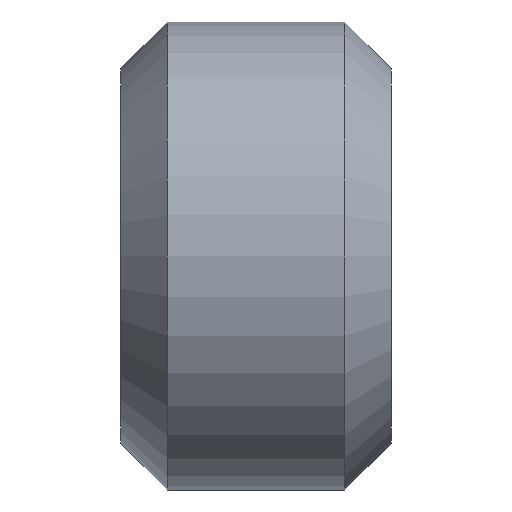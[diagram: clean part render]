
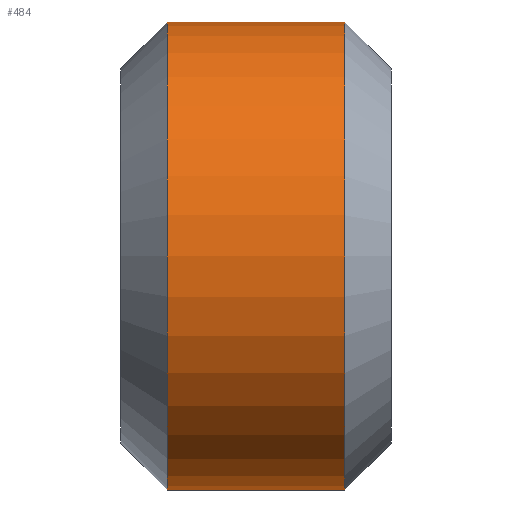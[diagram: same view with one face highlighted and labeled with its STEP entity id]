
A CAD part, front view. The second image highlights one B-rep face of the part: STEP entity #484.
In plain terms, the highlighted cylindrical face has radius 7.615 mm (diameter 15.23 mm), a full revolution.
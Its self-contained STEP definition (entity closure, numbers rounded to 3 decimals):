
#390 = CONICAL_SURFACE('',#391,6.105,0.785);
#391 = AXIS2_PLACEMENT_3D('',#392,#393,#394);
#392 = CARTESIAN_POINT('',(4.4,0.,0.));
#393 = DIRECTION('',(-1.,0.,0.));
#394 = DIRECTION('',(0.,0.,1.));
#409 = EDGE_CURVE('',#410,#412,#414,.T.);
#410 = VERTEX_POINT('',#411);
#411 = CARTESIAN_POINT('',(2.89,0.,-7.615));
#412 = VERTEX_POINT('',#413);
#413 = CARTESIAN_POINT('',(2.89,0.,7.615));
#414 = SURFACE_CURVE('',#415,(#420,#427),.PCURVE_S1.);
#415 = CIRCLE('',#416,7.615);
#416 = AXIS2_PLACEMENT_3D('',#417,#418,#419);
#417 = CARTESIAN_POINT('',(2.89,0.,0.));
#418 = DIRECTION('',(1.,0.,0.));
#419 = DIRECTION('',(0.,0.,-1.));
#420 = PCURVE('',#390,#421);
#421 = DEFINITIONAL_REPRESENTATION('',(#422),#426);
#422 = LINE('',#423,#424);
#423 = CARTESIAN_POINT('',(9.425,1.51));
#424 = VECTOR('',#425,1.);
#425 = DIRECTION('',(-1.,0.));
#426 = ( GEOMETRIC_REPRESENTATION_CONTEXT(2) 
PARAMETRIC_REPRESENTATION_CONTEXT() REPRESENTATION_CONTEXT('2D SPACE',''
  ) );
#427 = PCURVE('',#428,#433);
#428 = CYLINDRICAL_SURFACE('',#429,7.615);
#429 = AXIS2_PLACEMENT_3D('',#430,#431,#432);
#430 = CARTESIAN_POINT('',(0.,0.,0.));
#431 = DIRECTION('',(1.,0.,0.));
#432 = DIRECTION('',(0.,0.,-1.));
#433 = DEFINITIONAL_REPRESENTATION('',(#434),#438);
#434 = LINE('',#435,#436);
#435 = CARTESIAN_POINT('',(0.,2.89));
#436 = VECTOR('',#437,1.);
#437 = DIRECTION('',(1.,0.));
#438 = ( GEOMETRIC_REPRESENTATION_CONTEXT(2) 
PARAMETRIC_REPRESENTATION_CONTEXT() REPRESENTATION_CONTEXT('2D SPACE',''
  ) );
#440 = EDGE_CURVE('',#412,#410,#441,.T.);
#441 = SURFACE_CURVE('',#442,(#447,#454),.PCURVE_S1.);
#442 = CIRCLE('',#443,7.615);
#443 = AXIS2_PLACEMENT_3D('',#444,#445,#446);
#444 = CARTESIAN_POINT('',(2.89,0.,0.));
#445 = DIRECTION('',(1.,0.,0.));
#446 = DIRECTION('',(0.,0.,-1.));
#447 = PCURVE('',#390,#448);
#448 = DEFINITIONAL_REPRESENTATION('',(#449),#453);
#449 = LINE('',#450,#451);
#450 = CARTESIAN_POINT('',(9.425,1.51));
#451 = VECTOR('',#452,1.);
#452 = DIRECTION('',(-1.,0.));
#453 = ( GEOMETRIC_REPRESENTATION_CONTEXT(2) 
PARAMETRIC_REPRESENTATION_CONTEXT() REPRESENTATION_CONTEXT('2D SPACE',''
  ) );
#454 = PCURVE('',#428,#455);
#455 = DEFINITIONAL_REPRESENTATION('',(#456),#460);
#456 = LINE('',#457,#458);
#457 = CARTESIAN_POINT('',(-6.283,2.89));
#458 = VECTOR('',#459,1.);
#459 = DIRECTION('',(1.,0.));
#460 = ( GEOMETRIC_REPRESENTATION_CONTEXT(2) 
PARAMETRIC_REPRESENTATION_CONTEXT() REPRESENTATION_CONTEXT('2D SPACE',''
  ) );
#484 = ADVANCED_FACE('',(#485),#428,.T.);
#485 = FACE_BOUND('',#486,.T.);
#486 = EDGE_LOOP('',(#487,#488,#489,#512,#541,#563));
#487 = ORIENTED_EDGE('',*,*,#409,.F.);
#488 = ORIENTED_EDGE('',*,*,#440,.F.);
#489 = ORIENTED_EDGE('',*,*,#490,.T.);
#490 = EDGE_CURVE('',#412,#491,#493,.T.);
#491 = VERTEX_POINT('',#492);
#492 = CARTESIAN_POINT('',(-2.89,0.,7.615));
#493 = SEAM_CURVE('',#494,(#498,#505),.PCURVE_S1.);
#494 = LINE('',#495,#496);
#495 = CARTESIAN_POINT('',(0.,0.,7.615));
#496 = VECTOR('',#497,1.);
#497 = DIRECTION('',(-1.,0.,0.));
#498 = PCURVE('',#428,#499);
#499 = DEFINITIONAL_REPRESENTATION('',(#500),#504);
#500 = LINE('',#501,#502);
#501 = CARTESIAN_POINT('',(-3.142,0.));
#502 = VECTOR('',#503,1.);
#503 = DIRECTION('',(0.,-1.));
#504 = ( GEOMETRIC_REPRESENTATION_CONTEXT(2) 
PARAMETRIC_REPRESENTATION_CONTEXT() REPRESENTATION_CONTEXT('2D SPACE',''
  ) );
#505 = PCURVE('',#428,#506);
#506 = DEFINITIONAL_REPRESENTATION('',(#507),#511);
#507 = LINE('',#508,#509);
#508 = CARTESIAN_POINT('',(3.142,0.));
#509 = VECTOR('',#510,1.);
#510 = DIRECTION('',(0.,-1.));
#511 = ( GEOMETRIC_REPRESENTATION_CONTEXT(2) 
PARAMETRIC_REPRESENTATION_CONTEXT() REPRESENTATION_CONTEXT('2D SPACE',''
  ) );
#512 = ORIENTED_EDGE('',*,*,#513,.T.);
#513 = EDGE_CURVE('',#491,#514,#516,.T.);
#514 = VERTEX_POINT('',#515);
#515 = CARTESIAN_POINT('',(-2.89,0.,-7.615));
#516 = SURFACE_CURVE('',#517,(#522,#529),.PCURVE_S1.);
#517 = CIRCLE('',#518,7.615);
#518 = AXIS2_PLACEMENT_3D('',#519,#520,#521);
#519 = CARTESIAN_POINT('',(-2.89,0.,0.));
#520 = DIRECTION('',(1.,0.,0.));
#521 = DIRECTION('',(0.,0.,-1.));
#522 = PCURVE('',#428,#523);
#523 = DEFINITIONAL_REPRESENTATION('',(#524),#528);
#524 = LINE('',#525,#526);
#525 = CARTESIAN_POINT('',(-6.283,-2.89));
#526 = VECTOR('',#527,1.);
#527 = DIRECTION('',(1.,0.));
#528 = ( GEOMETRIC_REPRESENTATION_CONTEXT(2) 
PARAMETRIC_REPRESENTATION_CONTEXT() REPRESENTATION_CONTEXT('2D SPACE',''
  ) );
#529 = PCURVE('',#530,#535);
#530 = CONICAL_SURFACE('',#531,7.615,0.785);
#531 = AXIS2_PLACEMENT_3D('',#532,#533,#534);
#532 = CARTESIAN_POINT('',(-2.89,0.,0.));
#533 = DIRECTION('',(1.,0.,0.));
#534 = DIRECTION('',(0.,0.,-1.));
#535 = DEFINITIONAL_REPRESENTATION('',(#536),#540);
#536 = LINE('',#537,#538);
#537 = CARTESIAN_POINT('',(-6.283,0.));
#538 = VECTOR('',#539,1.);
#539 = DIRECTION('',(1.,0.));
#540 = ( GEOMETRIC_REPRESENTATION_CONTEXT(2) 
PARAMETRIC_REPRESENTATION_CONTEXT() REPRESENTATION_CONTEXT('2D SPACE',''
  ) );
#541 = ORIENTED_EDGE('',*,*,#542,.T.);
#542 = EDGE_CURVE('',#514,#491,#543,.T.);
#543 = SURFACE_CURVE('',#544,(#549,#556),.PCURVE_S1.);
#544 = CIRCLE('',#545,7.615);
#545 = AXIS2_PLACEMENT_3D('',#546,#547,#548);
#546 = CARTESIAN_POINT('',(-2.89,0.,0.));
#547 = DIRECTION('',(1.,0.,0.));
#548 = DIRECTION('',(0.,0.,-1.));
#549 = PCURVE('',#428,#550);
#550 = DEFINITIONAL_REPRESENTATION('',(#551),#555);
#551 = LINE('',#552,#553);
#552 = CARTESIAN_POINT('',(0.,-2.89));
#553 = VECTOR('',#554,1.);
#554 = DIRECTION('',(1.,0.));
#555 = ( GEOMETRIC_REPRESENTATION_CONTEXT(2) 
PARAMETRIC_REPRESENTATION_CONTEXT() REPRESENTATION_CONTEXT('2D SPACE',''
  ) );
#556 = PCURVE('',#530,#557);
#557 = DEFINITIONAL_REPRESENTATION('',(#558),#562);
#558 = LINE('',#559,#560);
#559 = CARTESIAN_POINT('',(0.,0.));
#560 = VECTOR('',#561,1.);
#561 = DIRECTION('',(1.,0.));
#562 = ( GEOMETRIC_REPRESENTATION_CONTEXT(2) 
PARAMETRIC_REPRESENTATION_CONTEXT() REPRESENTATION_CONTEXT('2D SPACE',''
  ) );
#563 = ORIENTED_EDGE('',*,*,#490,.F.);
